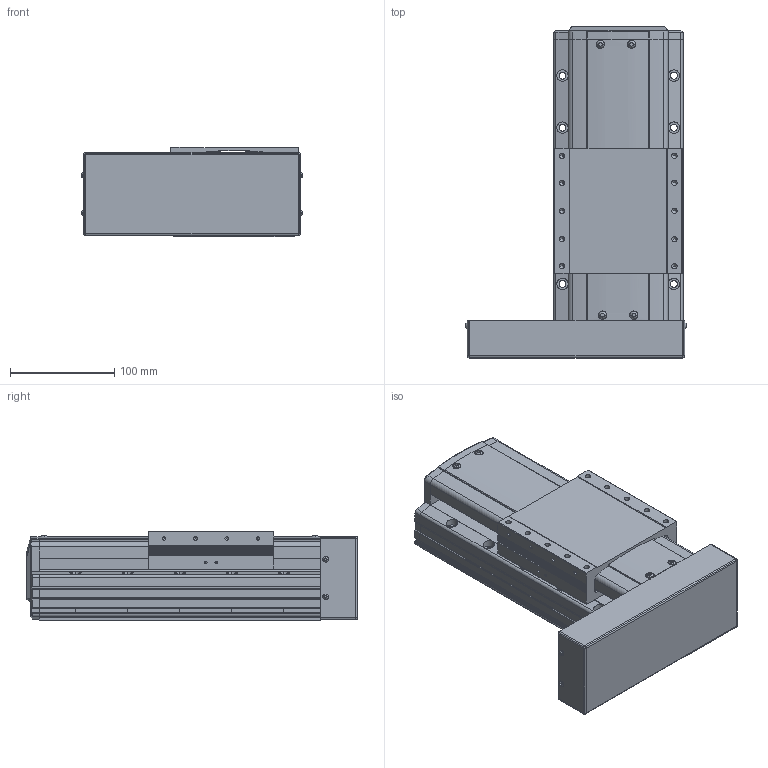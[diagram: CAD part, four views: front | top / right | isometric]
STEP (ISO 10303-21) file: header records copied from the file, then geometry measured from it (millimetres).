
FILE_DESCRIPTION(('STEP AP214'),'1');
FILE_NAME('Z:/Web/3D/PSA125/STP/PSA125-050 (3D)/PSA125ㅁㅁ-050PL.stp','2014-06-18T08:41:40',(' '),(' '),'Spatial InterOp 3D',' ',' ');
FILE_SCHEMA(('automotive_design'));
Length unit declared in the file: millimetre
Products named in the file (23): 스크루 : Round - M4.0 x 10.0; RRCV-PA120; SLIDE; BASE; FRCV-PA120-1(기준 뿔 제거); RR1500; 스크루 : Round - M4.0 x 6.0; 너트 : Square - M10.0 x 220.7419; BTCV - 60A; 스크루 : Round - M3.0 x 6.0
Bounding box: 212.13 x 318.6 x 86 mm (x, y, z)
Volume: 3124203.1 mm3; surface area: 319081.5 mm2
Topology: 23 solids, 23 shells, 1856 faces, 4971 edges, 3174 vertices
Faces by surface type: plane 1046, cylinder 530, cone 180, sphere 44, bspline 31, torus 25
Entity records: 74688 total; most frequent: CARTESIAN_POINT 12764, DIRECTION 9807, ORIENTED_EDGE 9730, EDGE_CURVE 4865, LINE 3323, VECTOR 3323, AXIS2_PLACEMENT_3D 3242, VERTEX_POINT 3174
